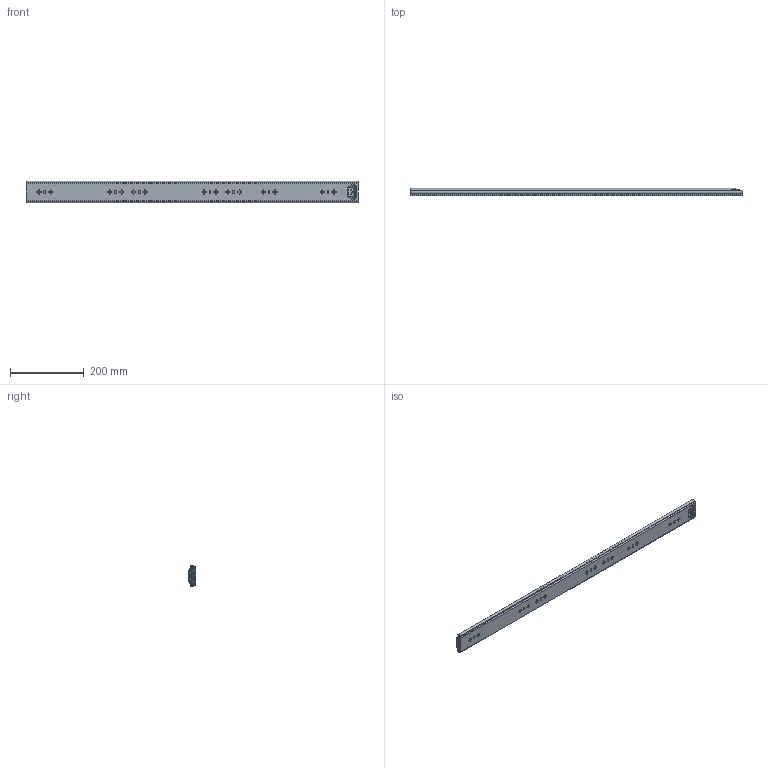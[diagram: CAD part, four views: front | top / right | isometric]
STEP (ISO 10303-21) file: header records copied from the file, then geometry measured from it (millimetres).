
FILE_DESCRIPTION((''),'2;1');
FILE_NAME('1057-02-36_ASM','2023-12-23T',('jishu015'),(''),'PRO/ENGINEER BY PARAMETRIC TECHNOLOGY CORPORATION, 2010280','PRO/ENGINEER BY PARAMETRIC TECHNOLOGY CORPORATION, 2010280','');
FILE_SCHEMA(('CONFIG_CONTROL_DESIGN'));
Products named in the file (14): KP-57-01WEIKE-18__________; 1057WEIJIAO__________; 1057DAZHUJIA-14GE__________; 1057-5-6GANZHU__________; 1057DAZHUJIA-14GE___________ASM; KP-57-01ZHONGGUI-18__________; 57-ZHONGGUIDINWEIJIAN__________; KP-57-01ZHONGGUI-18___________ASM; 1057XIAOZHUJIA__________; 1057XIAOZHUJIA-14GE___________ASM; KP-57-01NEIGUI-18__________; 45TIEBACHA__________; KP-57-01NEIGUI-18___________ASM; 1057-02-36_ASM
Assembly tree (144 placements, depth 3):
  1057-02-36_ASM
    KP-57-01WEIKE-18__________
    1057WEIJIAO__________
    1057DAZHUJIA-14GE___________ASM
      1057DAZHUJIA-14GE__________
      1057-5-6GANZHU__________  x64
    KP-57-01ZHONGGUI-18___________ASM
      KP-57-01ZHONGGUI-18__________
      57-ZHONGGUIDINWEIJIAN__________
    1057XIAOZHUJIA-14GE___________ASM
      1057XIAOZHUJIA__________
      1057-5-6GANZHU__________  x68
    KP-57-01NEIGUI-18___________ASM
      KP-57-01NEIGUI-18__________
      45TIEBACHA__________
Bounding box: 900 x 19 x 57.67 mm (x, y, z)
Volume: 391890.9 mm3; surface area: 459615.5 mm2
Topology: 140 solids, 142 shells, 3619 faces, 10170 edges, 6296 vertices
Faces by surface type: plane 1675, cylinder 1488, sphere 272, cone 106, bspline 72, torus 6
Entity records: 113262 total; most frequent: CARTESIAN_POINT 23042, DIRECTION 19160, ORIENTED_EDGE 18740, EDGE_CURVE 9372, AXIS2_PLACEMENT_3D 6571, VERTEX_POINT 6034, VECTOR 6018, LINE 6018
